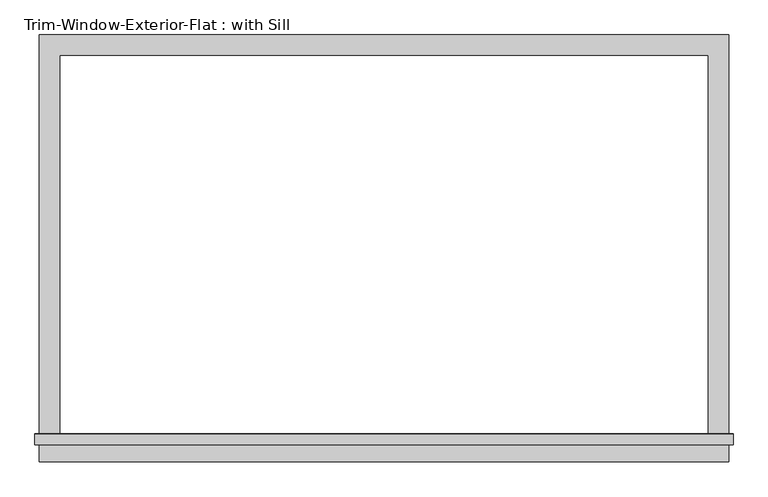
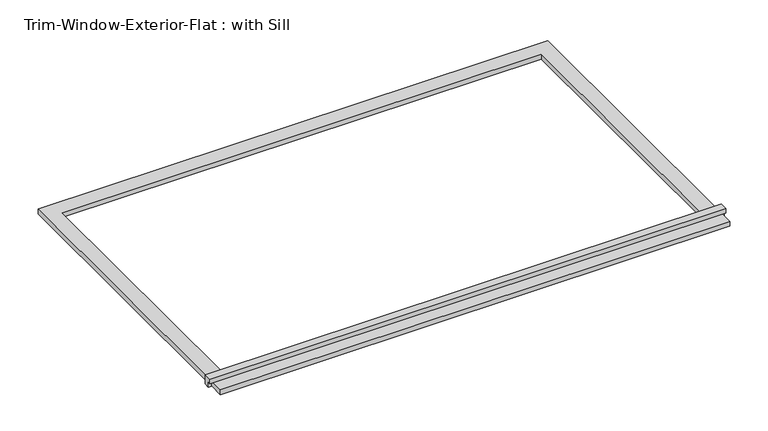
"""IFC4 building model written with IfcOpenShell, lengths in millimetres: proxy geometry, Trim-Window-Exterior-Flat : with Sill."""

from ifc_helpers import new_model, si_unit, frame, origin, origin_with_axes, place, context, project, spatial, polyline, outline, extrude, source, transform, mapped, element, save


def trim_window_exterior_flat_with_sill_e13d5450(model_context):
    return source(origin(), model_context, "Body", "SweptSolid", [
        extrude(outline(polyline([(971.55, -1088.9823709), (971.55, -1146.1323709), (-971.55, -1146.1323709), (-971.55, -1088.9823709), (971.55, -1088.9823709)])), origin_with_axes(), (0.0, 0.0, 1.0), 19.05),
        extrude(outline(polyline([(-1098.55, 38.1), (-1069.2580645, 38.1), (-1066.8, 19.05), (-1066.8, 0.0), (-1088.9823709, 0.0), (-1088.9823709, 19.05), (-1098.55, 19.05), (-1098.55, 38.1)])), frame((-984.25, 0.0, 0.0), z_axis=(1.0, 0.0, 0.0), x_axis=(0.0, 1.0, 0.0)), (0.0, 0.0, 1.0), 1968.5),
        extrude(outline(polyline([(-971.55, 57.15), (971.55, 57.15), (971.55, -1066.8), (914.4, -1066.8), (914.4, 0.0), (-914.4, 0.0), (-914.4, -1066.8), (-971.55, -1066.8), (-971.55, 57.15)])), origin_with_axes(), (0.0, 0.0, 1.0), 19.05),
    ])


if __name__ == "__main__":
    model = new_model("IFC4")
    model_context = context("Model", 3, world=origin())
    ifc_project = project(units=[si_unit("LENGTHUNIT", "METRE", prefix="MILLI")], contexts=[model_context])
    site = spatial("IfcSite", under=ifc_project)
    building = spatial("IfcBuilding", under=site)
    placement = place(None, origin())
    trim_window_exterior_flat_with_sill_shape = trim_window_exterior_flat_with_sill_e13d5450(model_context)
    element("IfcBuildingElementProxy", 1, Name="Trim-Window-Exterior-Flat : with Sill", ObjectType="Trim-Window-Exterior-Flat : with Sill", at=placement, inside=building, context=model_context, shape_type="MappedRepresentation", body=[
        mapped(trim_window_exterior_flat_with_sill_shape, transform((0.0, 0.0, 0.0), x_axis=(1.0, 0.0, 0.0), y_axis=(0.0, 1.0, 0.0), z_axis=(0.0, 0.0, 1.0))),
    ])
    save(model, "model.ifc")
